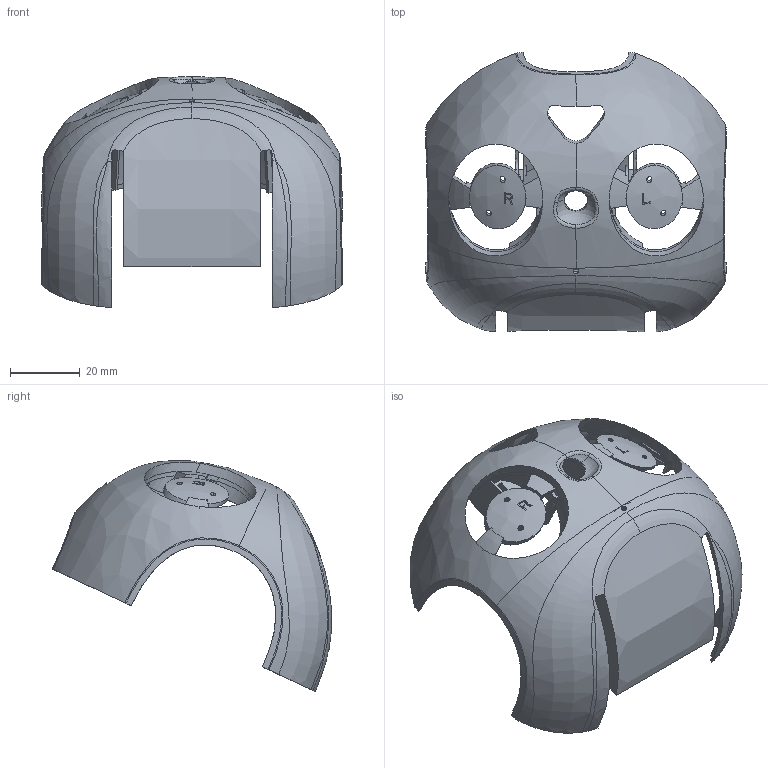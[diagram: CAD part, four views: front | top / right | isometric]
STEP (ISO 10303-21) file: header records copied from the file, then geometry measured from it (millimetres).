
FILE_DESCRIPTION((''),'2;1');
FILE_NAME('DARWIN-OP2_CVR_HEAD_F_PRT','2016-08-12T',('kimdolyang'),(''),'PRO/ENGINEER BY PARAMETRIC TECHNOLOGY CORPORATION, 2013410','PRO/ENGINEER BY PARAMETRIC TECHNOLOGY CORPORATION, 2013410','');
FILE_SCHEMA(('AUTOMOTIVE_DESIGN { 1 0 10303 214 1 1 1 1 }'));
Length unit declared in the file: millimetre
Products named in the file (1): DARWIN-OP2_CVR_HEAD_F_PRT
Bounding box: 86.16 x 79.99 x 66.14 mm (x, y, z)
Volume: 17088.3 mm3; surface area: 32795.7 mm2
Topology: 1 solids, 1 shells, 571 faces, 1631 edges, 1072 vertices
Faces by surface type: plane 247, extrusion 107, bspline 92, cylinder 85, cone 20, revolution 12, sphere 8
Entity records: 34032 total; most frequent: CARTESIAN_POINT 15858, ORIENTED_EDGE 3258, DIRECTION 1777, PRESENTATION_STYLE_ASSIGNMENT 1632, STYLED_ITEM 1630, CURVE_STYLE 1629, EDGE_CURVE 1629, VERTEX_POINT 1072
